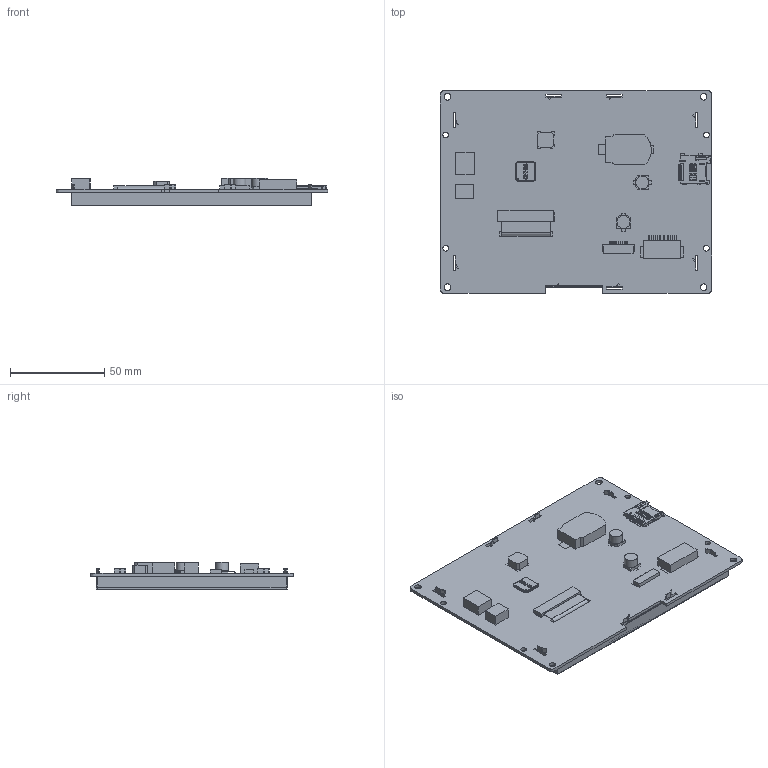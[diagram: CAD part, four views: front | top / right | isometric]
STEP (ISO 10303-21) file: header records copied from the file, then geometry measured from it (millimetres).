
FILE_DESCRIPTION(/* description */ (''),/* implementation_level */ '2;1');
FILE_NAME(/* name */ '',/* time_stamp */ '2022-03-29T19:13:54+08:00',/* author */ (''),/* organization */ (''),/* preprocessor_version */ 'ST-DEVELOPER v11',/* originating_system */ 'SIEMENS PLM Software NX 7.5',/* authorisation */ '');
FILE_SCHEMA (('AP203_CONFIGURATION_CONTROLLED_3D_DESIGN_OF_MECHANICAL_PARTS_AND_ASSEMBLIES_MIM_LF'));
Products named in the file (1): SDWb056T74N
Bounding box: 143.51 x 107.41 x 14.81 mm (x, y, z)
Volume: 216196.3 mm3; surface area: 123584.8 mm2
Topology: 32 solids, 32 shells, 2630 faces, 7376 edges, 4856 vertices
Faces by surface type: plane 2200, cylinder 421, bspline 7, extrusion 1, cone 1
Full cylindrical faces by diameter (mm): 3 x4, 3.5 x4, 6.776 x2
Entity records: 85484 total; most frequent: CARTESIAN_POINT 15651, ORIENTED_EDGE 14684, DIRECTION 13296, EDGE_CURVE 7342, VECTOR 6402, LINE 6401, VERTEX_POINT 4827, AXIS2_PLACEMENT_3D 3447
